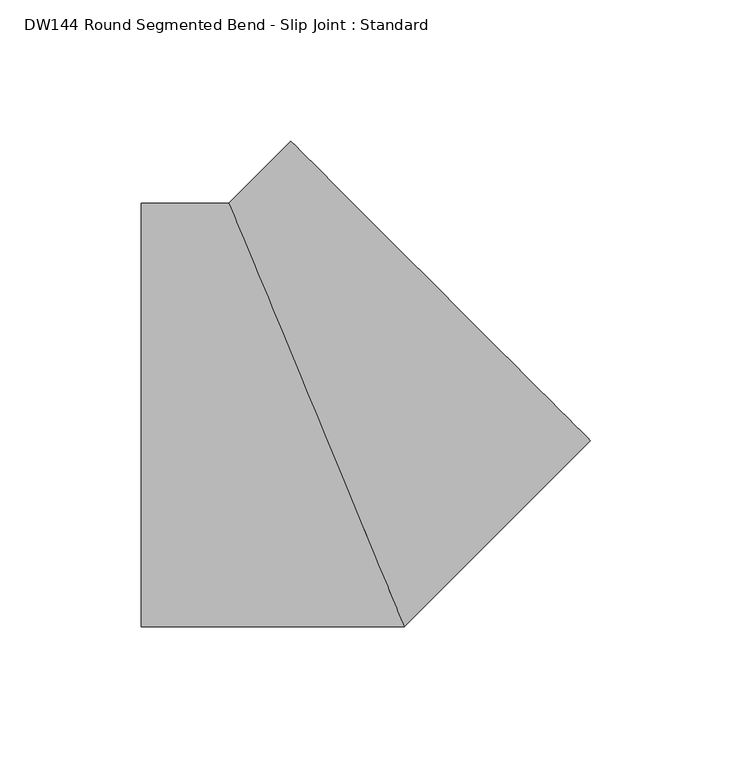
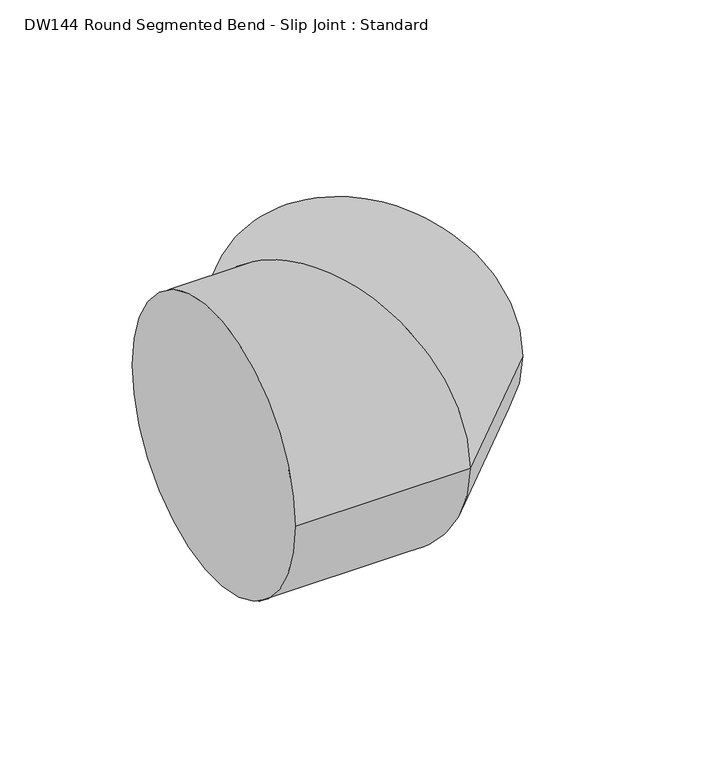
"""IFC4 building model written with IfcOpenShell, lengths in millimetres: duct fitting geometry, DW144 Round Segmented Bend - Slip Joint : Standard."""

from ifc_helpers import new_model, si_unit, frame, origin, place, context, project, spatial, circle_curve, ellipse_curve, source, transform, mapped, element, save
from ifc_brep_helpers import plane_surface, cylinder_surface, advanced_brep


def dw144_round_segmented_bend_slip_joint_standard_7e081cfe(model_context):
    return source(origin(), model_context, "Body", "AdvancedBrep", [
        advanced_brep(
        [(-62.1320344, -75.0, 0.0), (-62.1320344, 75.0, 0.0), (31.0660172, -75.0, 0.0), (-31.0660172, 75.0, 0.0), (96.9669914, -9.0990258, 0.0), (-9.0990258, 96.9669914, 0.0)],
        [
            (0, 1, circle_curve(frame((-62.1320344, 0.0, 0.0), z_axis=(-1.0, 0.0, 0.0), x_axis=(0.0, 1.0, 0.0)), 75.0)),
            (1, 0, circle_curve(frame((-62.1320344, 0.0, 0.0), z_axis=(-1.0, 0.0, 0.0), x_axis=(0.0, 1.0, 0.0)), 75.0)),
            (0, 2),
            (2, 3, ellipse_curve(frame((0.0, 0.0, 0.0), z_axis=(-0.9238795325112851, -0.38268343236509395, 0.0), x_axis=(-0.3826834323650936, 0.9238795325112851, 0.0)), 81.179415, 75.0)),
            (3, 1),
            (3, 2, ellipse_curve(frame((0.0, 0.0, 0.0), z_axis=(-0.9238795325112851, -0.38268343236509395, 0.0), x_axis=(-0.3826834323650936, 0.9238795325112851, 0.0)), 81.179415, 75.0)),
            (2, 4),
            (4, 5, circle_curve(frame((43.9339828, 43.9339828, 0.0), z_axis=(-0.7071067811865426, -0.7071067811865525, 0.0), x_axis=(-0.7071067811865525, 0.7071067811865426, 0.0)), 75.0)),
            (5, 3),
            (5, 4, circle_curve(frame((43.9339828, 43.9339828, 0.0), z_axis=(-0.7071067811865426, -0.7071067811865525, 0.0), x_axis=(-0.7071067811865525, 0.7071067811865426, 0.0)), 75.0)),
        ],
        [
            plane_surface(frame((-62.1320344, 0.0, 0.0), z_axis=(-1.0, 0.0, 0.0), x_axis=(0.0, 0.0, 1.0))),
            cylinder_surface(frame((-62.1320344, 0.0, 0.0), z_axis=(-1.0, 0.0, 0.0), x_axis=(0.0, 1.0, 0.0)), 75.0),
            cylinder_surface(frame((0.0, 0.0, 0.0), z_axis=(-0.7071067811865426, -0.7071067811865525, 0.0), x_axis=(-0.7071067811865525, 0.7071067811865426, 0.0)), 75.0),
            plane_surface(frame((43.9339828, 43.9339828, 0.0), z_axis=(0.7071067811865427, 0.7071067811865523, 0.0), x_axis=(0.0, 0.0, 1.0))),
        ],
        [
            (0, [[1, 2]]),
            (1, [[-1, 3, 4, 5]]),
            (1, [[-2, -5, 6, -3]]),
            (2, [[-4, 7, 8, 9]]),
            (2, [[-6, -9, 10, -7]]),
            (3, [[-10, -8]]),
        ],
    ),
    ])


if __name__ == "__main__":
    model = new_model("IFC4")
    model_context = context("Model", 3, world=origin())
    ifc_project = project(units=[si_unit("LENGTHUNIT", "METRE", prefix="MILLI")], contexts=[model_context])
    site = spatial("IfcSite", under=ifc_project)
    building = spatial("IfcBuilding", under=site)
    placement = place(None, origin())
    dw144_round_segmented_bend_slip_joint_standard_shape = dw144_round_segmented_bend_slip_joint_standard_7e081cfe(model_context)
    element("IfcDuctFitting", 1, ObjectType="DW144 Round Segmented Bend - Slip Joint : Standard", at=placement, inside=building, context=model_context, shape_type="MappedRepresentation", body=[
        mapped(dw144_round_segmented_bend_slip_joint_standard_shape, transform((0.0, 0.0, 0.0), x_axis=(1.0, 0.0, 0.0), y_axis=(0.0, 1.0, 0.0), z_axis=(0.0, 0.0, 1.0))),
    ])
    save(model, "model.ifc")
